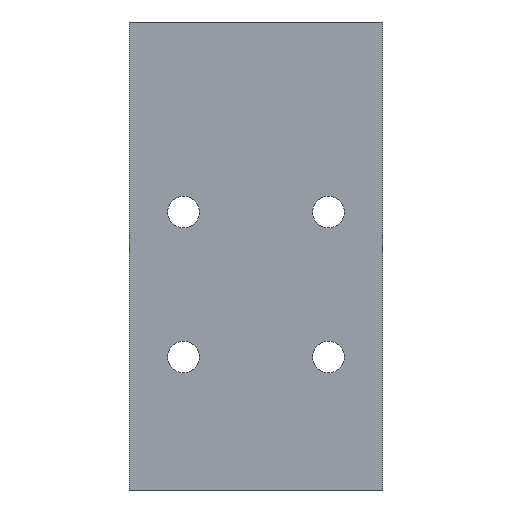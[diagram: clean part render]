
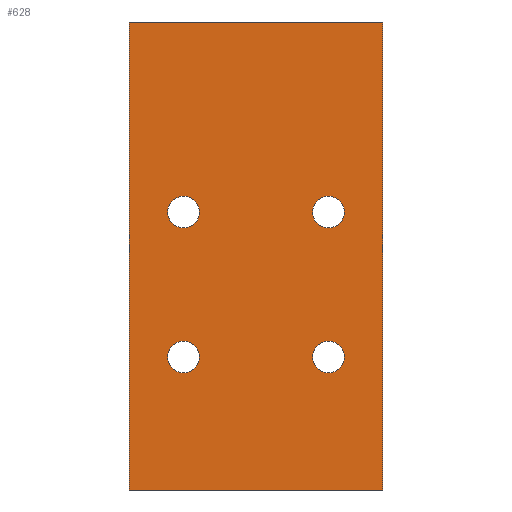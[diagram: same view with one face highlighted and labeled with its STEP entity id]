
A CAD part, left-side view. The second image highlights one B-rep face of the part: STEP entity #628.
In plain terms, the highlighted planar face has unit normal (-1, 0, 0).
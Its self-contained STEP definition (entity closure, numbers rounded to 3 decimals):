
#233 = VERTEX_POINT('',#234);
#234 = CARTESIAN_POINT('',(-30.,8.,-26.25));
#240 = EDGE_CURVE('',#233,#233,#241,.T.);
#241 = CIRCLE('',#242,1.75);
#242 = AXIS2_PLACEMENT_3D('',#243,#244,#245);
#243 = CARTESIAN_POINT('',(-30.,8.,-28.));
#244 = DIRECTION('',(1.,0.,0.));
#245 = DIRECTION('',(-0.,0.,1.));
#258 = VERTEX_POINT('',#259);
#259 = CARTESIAN_POINT('',(-30.,8.,-10.25));
#265 = EDGE_CURVE('',#258,#258,#266,.T.);
#266 = CIRCLE('',#267,1.75);
#267 = AXIS2_PLACEMENT_3D('',#268,#269,#270);
#268 = CARTESIAN_POINT('',(-30.,8.,-12.));
#269 = DIRECTION('',(1.,0.,0.));
#270 = DIRECTION('',(-0.,0.,1.));
#283 = VERTEX_POINT('',#284);
#284 = CARTESIAN_POINT('',(-30.,-8.,-26.25));
#290 = EDGE_CURVE('',#283,#283,#291,.T.);
#291 = CIRCLE('',#292,1.75);
#292 = AXIS2_PLACEMENT_3D('',#293,#294,#295);
#293 = CARTESIAN_POINT('',(-30.,-8.,-28.));
#294 = DIRECTION('',(1.,0.,0.));
#295 = DIRECTION('',(-0.,0.,1.));
#308 = VERTEX_POINT('',#309);
#309 = CARTESIAN_POINT('',(-30.,-8.,-10.25));
#315 = EDGE_CURVE('',#308,#308,#316,.T.);
#316 = CIRCLE('',#317,1.75);
#317 = AXIS2_PLACEMENT_3D('',#318,#319,#320);
#318 = CARTESIAN_POINT('',(-30.,-8.,-12.));
#319 = DIRECTION('',(1.,0.,0.));
#320 = DIRECTION('',(-0.,0.,1.));
#628 = ADVANCED_FACE('',(#629,#663,#666,#669,#672),#675,.T.);
#629 = FACE_BOUND('',#630,.T.);
#630 = EDGE_LOOP('',(#631,#641,#649,#657));
#631 = ORIENTED_EDGE('',*,*,#632,.T.);
#632 = EDGE_CURVE('',#633,#635,#637,.T.);
#633 = VERTEX_POINT('',#634);
#634 = CARTESIAN_POINT('',(-30.,-14.,-42.7));
#635 = VERTEX_POINT('',#636);
#636 = CARTESIAN_POINT('',(-30.,-14.,9.));
#637 = LINE('',#638,#639);
#638 = CARTESIAN_POINT('',(-30.,-14.,-42.7));
#639 = VECTOR('',#640,1.);
#640 = DIRECTION('',(0.,0.,1.));
#641 = ORIENTED_EDGE('',*,*,#642,.T.);
#642 = EDGE_CURVE('',#635,#643,#645,.T.);
#643 = VERTEX_POINT('',#644);
#644 = CARTESIAN_POINT('',(-30.,14.,9.));
#645 = LINE('',#646,#647);
#646 = CARTESIAN_POINT('',(-30.,-14.,9.));
#647 = VECTOR('',#648,1.);
#648 = DIRECTION('',(-0.,1.,0.));
#649 = ORIENTED_EDGE('',*,*,#650,.F.);
#650 = EDGE_CURVE('',#651,#643,#653,.T.);
#651 = VERTEX_POINT('',#652);
#652 = CARTESIAN_POINT('',(-30.,14.,-42.7));
#653 = LINE('',#654,#655);
#654 = CARTESIAN_POINT('',(-30.,14.,5.));
#655 = VECTOR('',#656,1.);
#656 = DIRECTION('',(0.,0.,1.));
#657 = ORIENTED_EDGE('',*,*,#658,.F.);
#658 = EDGE_CURVE('',#633,#651,#659,.T.);
#659 = LINE('',#660,#661);
#660 = CARTESIAN_POINT('',(-30.,-14.,-42.7));
#661 = VECTOR('',#662,1.);
#662 = DIRECTION('',(-0.,1.,0.));
#663 = FACE_BOUND('',#664,.T.);
#664 = EDGE_LOOP('',(#665));
#665 = ORIENTED_EDGE('',*,*,#240,.T.);
#666 = FACE_BOUND('',#667,.T.);
#667 = EDGE_LOOP('',(#668));
#668 = ORIENTED_EDGE('',*,*,#265,.T.);
#669 = FACE_BOUND('',#670,.T.);
#670 = EDGE_LOOP('',(#671));
#671 = ORIENTED_EDGE('',*,*,#290,.T.);
#672 = FACE_BOUND('',#673,.T.);
#673 = EDGE_LOOP('',(#674));
#674 = ORIENTED_EDGE('',*,*,#315,.T.);
#675 = PLANE('',#676);
#676 = AXIS2_PLACEMENT_3D('',#677,#678,#679);
#677 = CARTESIAN_POINT('',(-30.,0.,-16.85));
#678 = DIRECTION('',(-1.,-0.,-0.));
#679 = DIRECTION('',(0.,0.,-1.));
